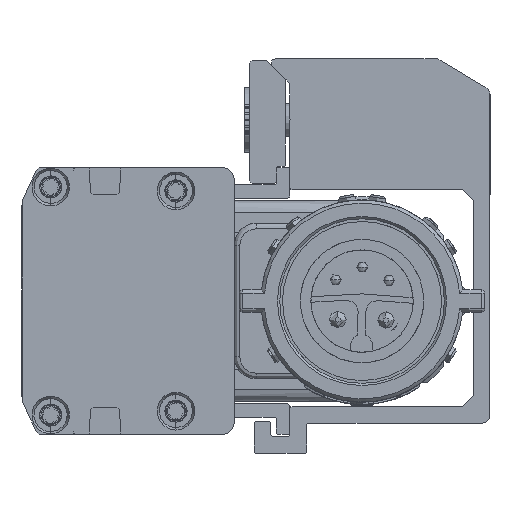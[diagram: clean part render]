
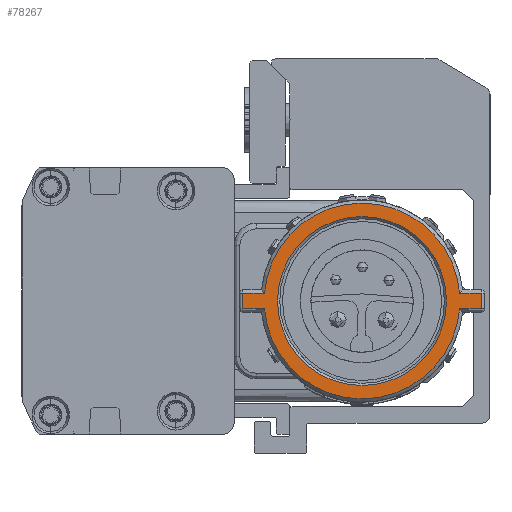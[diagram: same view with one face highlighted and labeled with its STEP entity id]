
A CAD part, left-side view. The second image highlights one B-rep face of the part: STEP entity #78267.
In plain terms, the highlighted planar face has unit normal (-1, 0, 0).
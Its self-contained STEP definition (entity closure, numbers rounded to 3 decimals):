
#1020 = ORIENTED_EDGE ( 'NONE', *, *, #27299, .F. ) ;
#2329 = VERTEX_POINT ( 'NONE', #32902 ) ;
#3845 = CARTESIAN_POINT ( 'NONE',  ( 0., 8.777, 0.7 ) ) ;
#3942 = EDGE_CURVE ( 'NONE', #37085, #50014, #11764, .T. ) ;
#4783 = CARTESIAN_POINT ( 'NONE',  ( 0., 10.75, -0.7 ) ) ;
#6772 = DIRECTION ( 'NONE',  ( 0., 0.5, -0.866 ) ) ;
#6986 = EDGE_LOOP ( 'NONE', ( #26547, #1020, #36079, #40546, #77315, #27891, #57583, #65290 ) ) ;
#7200 = DIRECTION ( 'NONE',  ( 0., -0.5, 0.866 ) ) ;
#7814 = DIRECTION ( 'NONE',  ( 0., -1., 0. ) ) ;
#7997 = FACE_OUTER_BOUND ( 'NONE', #6986, .T. ) ;
#8862 = CARTESIAN_POINT ( 'NONE',  ( 0., 8.777, -0.7 ) ) ;
#9265 = CARTESIAN_POINT ( 'NONE',  ( 0., -8.767, -0.7 ) ) ;
#10475 = DIRECTION ( 'NONE',  ( 1., 0., 0. ) ) ;
#11764 = LINE ( 'NONE', #83169, #54067 ) ;
#12785 = EDGE_CURVE ( 'NONE', #78367, #37085, #19425, .T. ) ;
#13397 = EDGE_CURVE ( 'NONE', #2329, #88085, #53201, .T. ) ;
#13794 = LINE ( 'NONE', #85128, #74636 ) ;
#15365 = DIRECTION ( 'NONE',  ( 1., 0., 0. ) ) ;
#15846 = CARTESIAN_POINT ( 'NONE',  ( 0., 10.75, 0.7 ) ) ;
#16977 = EDGE_CURVE ( 'NONE', #52539, #42170, #35404, .T. ) ;
#17063 = EDGE_CURVE ( 'NONE', #42170, #52539, #76216, .T. ) ;
#17948 = CARTESIAN_POINT ( 'NONE',  ( 0., -10.74, -0.7 ) ) ;
#17968 = AXIS2_PLACEMENT_3D ( 'NONE', #31118, #10475, #38472 ) ;
#18262 = ORIENTED_EDGE ( 'NONE', *, *, #16977, .F. ) ;
#19425 = CIRCLE ( 'NONE', #17968, 8.8 ) ;
#24118 = VECTOR ( 'NONE', #58430, 1000. ) ;
#25887 = DIRECTION ( 'NONE',  ( 0., 0.5, -0.866 ) ) ;
#26400 = AXIS2_PLACEMENT_3D ( 'NONE', #40675, #88632, #6772 ) ;
#26547 = ORIENTED_EDGE ( 'NONE', *, *, #12785, .F. ) ;
#27299 = EDGE_CURVE ( 'NONE', #64176, #78367, #13794, .T. ) ;
#27891 = ORIENTED_EDGE ( 'NONE', *, *, #13397, .F. ) ;
#29041 = PLANE ( 'NONE',  #44702 ) ;
#29602 = DIRECTION ( 'NONE',  ( 0., 1., 0. ) ) ;
#29711 = EDGE_LOOP ( 'NONE', ( #37526, #18262 ) ) ;
#30996 = EDGE_CURVE ( 'NONE', #88085, #51282, #77706, .T. ) ;
#31118 = CARTESIAN_POINT ( 'NONE',  ( 0., 0.005, 0. ) ) ;
#31657 = EDGE_CURVE ( 'NONE', #58238, #64176, #66931, .T. ) ;
#32902 = CARTESIAN_POINT ( 'NONE',  ( 0., -10.74, -0.7 ) ) ;
#34512 = EDGE_CURVE ( 'NONE', #50014, #2329, #65292, .T. ) ;
#35392 = AXIS2_PLACEMENT_3D ( 'NONE', #60763, #88568, #25887 ) ;
#35404 = CIRCLE ( 'NONE', #26400, 7.6 ) ;
#36079 = ORIENTED_EDGE ( 'NONE', *, *, #31657, .F. ) ;
#36085 = CARTESIAN_POINT ( 'NONE',  ( 0., 0.005, 0. ) ) ;
#37085 = VERTEX_POINT ( 'NONE', #56352 ) ;
#37526 = ORIENTED_EDGE ( 'NONE', *, *, #17063, .F. ) ;
#38472 = DIRECTION ( 'NONE',  ( 0., -0.5, 0.866 ) ) ;
#40546 = ORIENTED_EDGE ( 'NONE', *, *, #45066, .F. ) ;
#40675 = CARTESIAN_POINT ( 'NONE',  ( 0., 0.005, 0. ) ) ;
#42170 = VERTEX_POINT ( 'NONE', #44234 ) ;
#44234 = CARTESIAN_POINT ( 'NONE',  ( 0., -3.795, 6.582 ) ) ;
#44702 = AXIS2_PLACEMENT_3D ( 'NONE', #57033, #15365, #58374 ) ;
#45066 = EDGE_CURVE ( 'NONE', #51282, #58238, #64886, .T. ) ;
#50014 = VERTEX_POINT ( 'NONE', #77638 ) ;
#51282 = VERTEX_POINT ( 'NONE', #8862 ) ;
#52539 = VERTEX_POINT ( 'NONE', #87192 ) ;
#53186 = CARTESIAN_POINT ( 'NONE',  ( 0., 10.75, -0.7 ) ) ;
#53201 = LINE ( 'NONE', #17948, #54573 ) ;
#54067 = VECTOR ( 'NONE', #61286, 1000. ) ;
#54573 = VECTOR ( 'NONE', #81097, 1000. ) ;
#56352 = CARTESIAN_POINT ( 'NONE',  ( 0., -8.767, 0.7 ) ) ;
#57033 = CARTESIAN_POINT ( 'NONE',  ( 0., 0.005, 0. ) ) ;
#57573 = CARTESIAN_POINT ( 'NONE',  ( 0., 8.777, -0.7 ) ) ;
#57583 = ORIENTED_EDGE ( 'NONE', *, *, #34512, .F. ) ;
#58238 = VERTEX_POINT ( 'NONE', #4783 ) ;
#58374 = DIRECTION ( 'NONE',  ( 0., -1., 0. ) ) ;
#58430 = DIRECTION ( 'NONE',  ( 0., 0., -1. ) ) ;
#60763 = CARTESIAN_POINT ( 'NONE',  ( 0., 0.005, 0. ) ) ;
#61286 = DIRECTION ( 'NONE',  ( 0., -1., 0. ) ) ;
#61388 = VECTOR ( 'NONE', #81083, 1000. ) ;
#64176 = VERTEX_POINT ( 'NONE', #15846 ) ;
#64791 = FACE_BOUND ( 'NONE', #29711, .T. ) ;
#64886 = LINE ( 'NONE', #57573, #77566 ) ;
#65290 = ORIENTED_EDGE ( 'NONE', *, *, #3942, .F. ) ;
#65292 = LINE ( 'NONE', #78574, #24118 ) ;
#66931 = LINE ( 'NONE', #53186, #61388 ) ;
#74636 = VECTOR ( 'NONE', #7814, 1000. ) ;
#76216 = CIRCLE ( 'NONE', #81951, 7.6 ) ;
#77248 = DIRECTION ( 'NONE',  ( -1., 0., 0. ) ) ;
#77315 = ORIENTED_EDGE ( 'NONE', *, *, #30996, .F. ) ;
#77566 = VECTOR ( 'NONE', #29602, 1000. ) ;
#77638 = CARTESIAN_POINT ( 'NONE',  ( 0., -10.74, 0.7 ) ) ;
#77706 = CIRCLE ( 'NONE', #35392, 8.8 ) ;
#78267 = ADVANCED_FACE ( 'NONE', ( #64791, #7997 ), #29041, .F. ) ;
#78367 = VERTEX_POINT ( 'NONE', #3845 ) ;
#78574 = CARTESIAN_POINT ( 'NONE',  ( 0., -10.74, 0.7 ) ) ;
#81083 = DIRECTION ( 'NONE',  ( 0., 0., 1. ) ) ;
#81097 = DIRECTION ( 'NONE',  ( 0., 1., 0. ) ) ;
#81951 = AXIS2_PLACEMENT_3D ( 'NONE', #36085, #77248, #7200 ) ;
#83169 = CARTESIAN_POINT ( 'NONE',  ( 0., -8.767, 0.7 ) ) ;
#85128 = CARTESIAN_POINT ( 'NONE',  ( 0., 10.75, 0.7 ) ) ;
#87192 = CARTESIAN_POINT ( 'NONE',  ( 0., 3.805, -6.582 ) ) ;
#88085 = VERTEX_POINT ( 'NONE', #9265 ) ;
#88568 = DIRECTION ( 'NONE',  ( 1., 0., 0. ) ) ;
#88632 = DIRECTION ( 'NONE',  ( -1., 0., 0. ) ) ;
